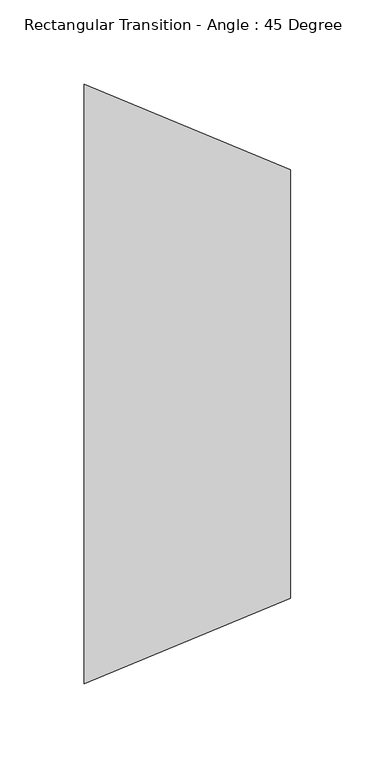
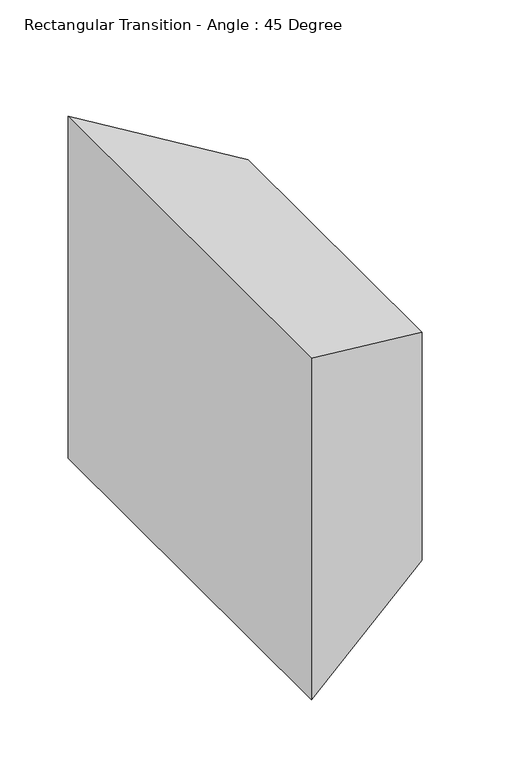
"""IFC4 building model written with IfcOpenShell, lengths in millimetres: duct fitting geometry, Rectangular Transition - Angle : 45 Degree."""

from ifc_helpers import new_model, si_unit, origin, place, context, project, spatial, faceted_brep, source, transform, mapped, element, save


def rectangular_transition_angle_45_degree_308f7163(model_context):
    return source(origin(), model_context, "Body", "Brep", [
        faceted_brep([(122.642049, 127.0, 101.6), (122.642049, -127.0, 101.6), (122.642049, -127.0, -101.6), (122.642049, 127.0, -101.6), (0.0, 177.8, 152.4), (0.0, 177.8, -152.4), (0.0, -177.8, -152.4), (0.0, -177.8, 152.4)], [[[0, 1, 2, 3]], [[4, 5, 6, 7]], [[4, 0, 3, 5]], [[5, 3, 2, 6]], [[6, 2, 1, 7]], [[7, 1, 0, 4]]]),
    ])


if __name__ == "__main__":
    model = new_model("IFC4")
    model_context = context("Model", 3, world=origin())
    ifc_project = project(units=[si_unit("LENGTHUNIT", "METRE", prefix="MILLI")], contexts=[model_context])
    site = spatial("IfcSite", under=ifc_project)
    building = spatial("IfcBuilding", under=site)
    placement = place(None, origin())
    rectangular_transition_angle_45_degree_shape = rectangular_transition_angle_45_degree_308f7163(model_context)
    element("IfcDuctFitting", 1, ObjectType="Rectangular Transition - Angle : 45 Degree", at=placement, inside=building, context=model_context, shape_type="MappedRepresentation", body=[
        mapped(rectangular_transition_angle_45_degree_shape, transform((0.0, 0.0, 0.0), x_axis=(1.0, 0.0, 0.0), y_axis=(0.0, 1.0, 0.0), z_axis=(0.0, 0.0, 1.0))),
    ])
    save(model, "model.ifc")
